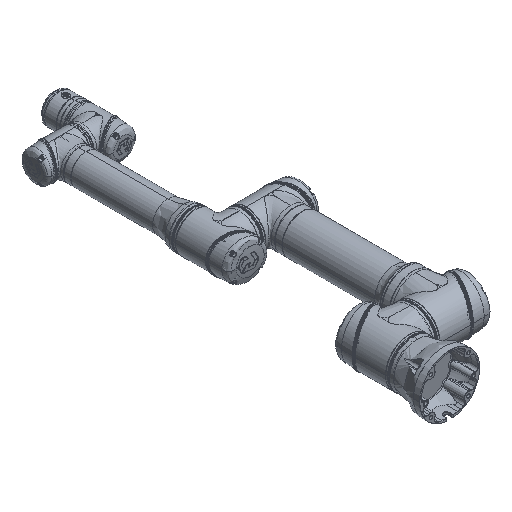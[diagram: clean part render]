
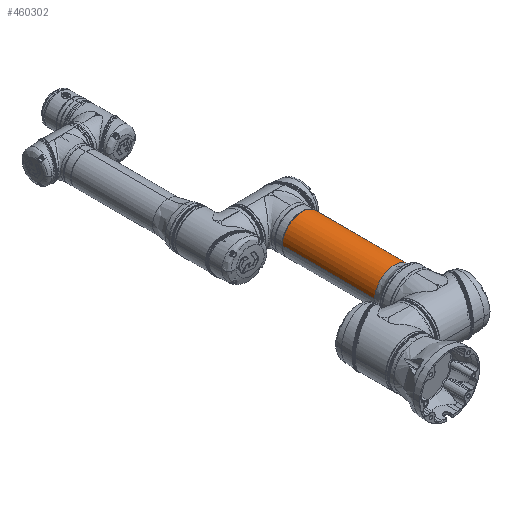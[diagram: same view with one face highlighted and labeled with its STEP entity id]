
A CAD part, isometric view. The second image highlights one B-rep face of the part: STEP entity #460302.
In plain terms, the highlighted cylindrical face has radius 48.5 mm (diameter 97 mm), a partial arc.
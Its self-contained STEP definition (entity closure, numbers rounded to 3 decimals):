
#16769 = VERTEX_POINT ( 'NONE', #267972 ) ;
#29494 = CARTESIAN_POINT ( 'NONE',  ( 347.7, 0., -92.5 ) ) ;
#75702 = CARTESIAN_POINT ( 'NONE',  ( -53.1, 0., -92.5 ) ) ;
#88837 = VECTOR ( 'NONE', #686392, 1000. ) ;
#97500 = ORIENTED_EDGE ( 'NONE', *, *, #268853, .T. ) ;
#104948 = CIRCLE ( 'NONE', #463983, 48.5 ) ;
#115179 = DIRECTION ( 'NONE',  ( -1., 0., 0. ) ) ;
#120154 = LINE ( 'NONE', #75702, #88837 ) ;
#133953 = CARTESIAN_POINT ( 'NONE',  ( 116.698, 0., -92.5 ) ) ;
#160310 = ORIENTED_EDGE ( 'NONE', *, *, #548360, .T. ) ;
#175295 = DIRECTION ( 'NONE',  ( 0., 0., 1. ) ) ;
#187906 = CARTESIAN_POINT ( 'NONE',  ( 347.7, 0., -141. ) ) ;
#193932 = CARTESIAN_POINT ( 'NONE',  ( 116.698, 0., -189.5 ) ) ;
#240394 = DIRECTION ( 'NONE',  ( 0., 0., 1. ) ) ;
#250399 = EDGE_CURVE ( 'NONE', #629121, #272046, #120154, .T. ) ;
#267972 = CARTESIAN_POINT ( 'NONE',  ( 347.7, 0., -189.5 ) ) ;
#268853 = EDGE_CURVE ( 'NONE', #16769, #629121, #592383, .T. ) ;
#272046 = VERTEX_POINT ( 'NONE', #133953 ) ;
#300620 = DIRECTION ( 'NONE',  ( -1., 0., 0. ) ) ;
#335457 = CARTESIAN_POINT ( 'NONE',  ( 116.698, -48.5, -141. ) ) ;
#364116 = CYLINDRICAL_SURFACE ( 'NONE', #616385, 48.5 ) ;
#368063 = DIRECTION ( 'NONE',  ( -1., 0., 0. ) ) ;
#375963 = FACE_OUTER_BOUND ( 'NONE', #460461, .T. ) ;
#408046 = DIRECTION ( 'NONE',  ( 0., 0., 1. ) ) ;
#433026 = DIRECTION ( 'NONE',  ( 0., 0., 1. ) ) ;
#460302 = ADVANCED_FACE ( 'NONE', ( #375963 ), #364116, .T. ) ;
#460461 = EDGE_LOOP ( 'NONE', ( #615741, #97500, #469253, #160310, #719557 ) ) ;
#461296 = EDGE_CURVE ( 'NONE', #16769, #764040, #725916, .T. ) ;
#463983 = AXIS2_PLACEMENT_3D ( 'NONE', #545835, #790844, #240394 ) ;
#465004 = CARTESIAN_POINT ( 'NONE',  ( -53.1, 0., -189.5 ) ) ;
#468351 = CARTESIAN_POINT ( 'NONE',  ( 116.698, 0., -141. ) ) ;
#469253 = ORIENTED_EDGE ( 'NONE', *, *, #250399, .T. ) ;
#545835 = CARTESIAN_POINT ( 'NONE',  ( 116.698, 0., -141. ) ) ;
#548360 = EDGE_CURVE ( 'NONE', #272046, #784839, #680647, .T. ) ;
#556828 = CARTESIAN_POINT ( 'NONE',  ( -53.1, 0., -141. ) ) ;
#590636 = AXIS2_PLACEMENT_3D ( 'NONE', #468351, #713416, #408046 ) ;
#592383 = CIRCLE ( 'NONE', #694962, 48.5 ) ;
#615741 = ORIENTED_EDGE ( 'NONE', *, *, #461296, .F. ) ;
#616385 = AXIS2_PLACEMENT_3D ( 'NONE', #556828, #368063, #175295 ) ;
#629121 = VERTEX_POINT ( 'NONE', #29494 ) ;
#661106 = EDGE_CURVE ( 'NONE', #784839, #764040, #104948, .T. ) ;
#680647 = CIRCLE ( 'NONE', #590636, 48.5 ) ;
#686392 = DIRECTION ( 'NONE',  ( -1., 0., 0. ) ) ;
#693786 = VECTOR ( 'NONE', #115179, 1000. ) ;
#694962 = AXIS2_PLACEMENT_3D ( 'NONE', #187906, #300620, #433026 ) ;
#713416 = DIRECTION ( 'NONE',  ( 1., 0., 0. ) ) ;
#719557 = ORIENTED_EDGE ( 'NONE', *, *, #661106, .T. ) ;
#725916 = LINE ( 'NONE', #465004, #693786 ) ;
#764040 = VERTEX_POINT ( 'NONE', #193932 ) ;
#784839 = VERTEX_POINT ( 'NONE', #335457 ) ;
#790844 = DIRECTION ( 'NONE',  ( 1., 0., 0. ) ) ;
